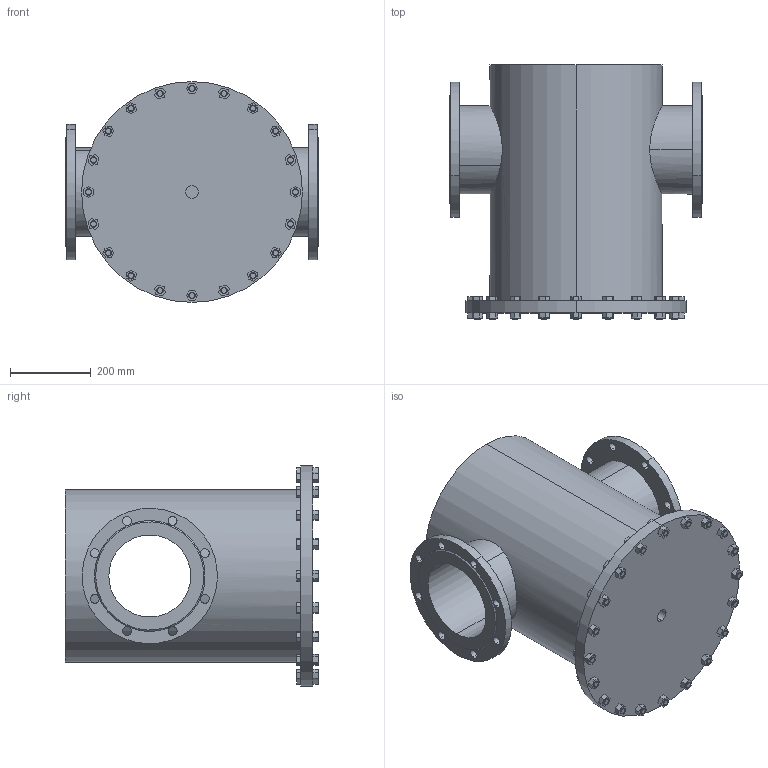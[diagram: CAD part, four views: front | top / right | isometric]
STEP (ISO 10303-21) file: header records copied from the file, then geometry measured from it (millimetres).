
FILE_DESCRIPTION (( 'STEP AP214' ), '1' );
FILE_NAME ('DN200 PN10.STEP', '2025-08-08T13:54:55', ( '' ), ( '' ), 'SwSTEP 2.0', 'SolidWorks 2023', '' );
FILE_SCHEMA (( 'AUTOMOTIVE_DESIGN' ));
Length unit declared in the file: millimetre
Products named in the file (1): DN200 PN10
Bounding box: 626 x 629 x 547 mm (x, y, z)
Volume: 79366453.2 mm3; surface area: 2072816.2 mm2
Topology: 1 solids, 1 shells, 448 faces, 1132 edges, 740 vertices
Faces by surface type: plane 312, cylinder 92, cone 44
Entity records: 15123 total; most frequent: CARTESIAN_POINT 2923, ORIENTED_EDGE 2264, DIRECTION 2258, EDGE_CURVE 1132, LINE 856, VECTOR 856, VERTEX_POINT 740, AXIS2_PLACEMENT_3D 701
